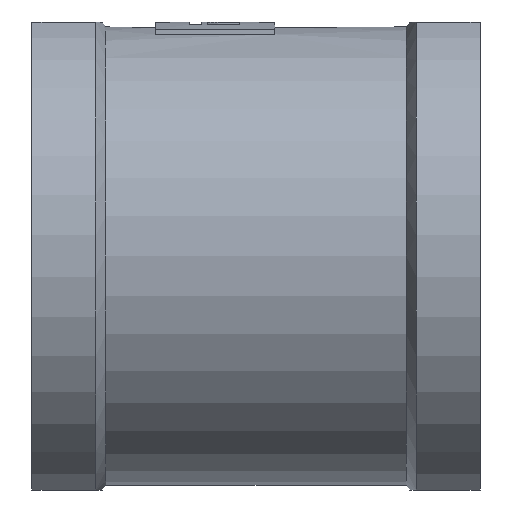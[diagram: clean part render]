
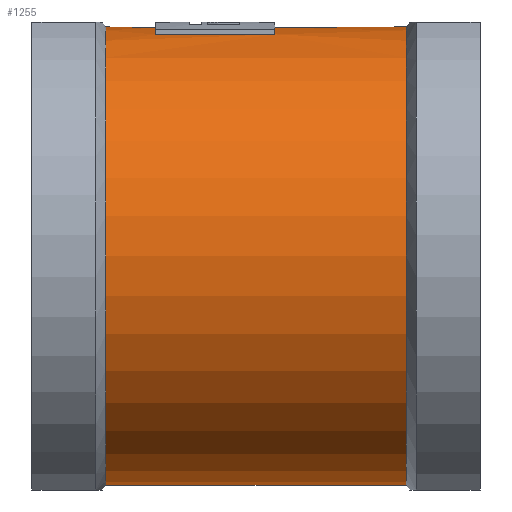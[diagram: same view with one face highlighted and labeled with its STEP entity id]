
A CAD part, front view. The second image highlights one B-rep face of the part: STEP entity #1255.
In plain terms, the highlighted cylindrical face has radius 23.25 mm (diameter 46.5 mm), a full revolution.
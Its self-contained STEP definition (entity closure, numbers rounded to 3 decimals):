
#61=FACE_BOUND('',#232,.T.);
#156=FACE_OUTER_BOUND('',#231,.T.);
#231=EDGE_LOOP('',(#916,#917,#918,#919,#920,#921));
#232=EDGE_LOOP('',(#922,#923,#924,#925));
#307=LINE('',#1925,#384);
#321=LINE('',#2002,#398);
#322=LINE('',#2009,#399);
#384=VECTOR('',#1508,10.);
#398=VECTOR('',#1554,10.);
#399=VECTOR('',#1561,23.25);
#454=CIRCLE('',#1352,23.25);
#459=CIRCLE('',#1365,23.25);
#460=CIRCLE('',#1368,23.25);
#461=CIRCLE('',#1369,23.25);
#462=CIRCLE('',#1370,23.25);
#463=CIRCLE('',#1371,23.25);
#517=VERTEX_POINT('',#1922);
#518=VERTEX_POINT('',#1924);
#519=VERTEX_POINT('',#1928);
#527=VERTEX_POINT('',#1998);
#528=VERTEX_POINT('',#2004);
#529=VERTEX_POINT('',#2005);
#530=VERTEX_POINT('',#2008);
#531=VERTEX_POINT('',#2010);
#655=EDGE_CURVE('',#518,#517,#307,.T.);
#658=EDGE_CURVE('',#517,#519,#454,.T.);
#675=EDGE_CURVE('',#527,#518,#459,.T.);
#677=EDGE_CURVE('',#519,#527,#321,.T.);
#678=EDGE_CURVE('',#528,#529,#460,.T.);
#679=EDGE_CURVE('',#529,#528,#461,.T.);
#680=EDGE_CURVE('',#529,#530,#322,.T.);
#681=EDGE_CURVE('',#530,#531,#462,.T.);
#682=EDGE_CURVE('',#531,#530,#463,.T.);
#916=ORIENTED_EDGE('',*,*,#678,.F.);
#917=ORIENTED_EDGE('',*,*,#679,.F.);
#918=ORIENTED_EDGE('',*,*,#680,.T.);
#919=ORIENTED_EDGE('',*,*,#681,.T.);
#920=ORIENTED_EDGE('',*,*,#682,.T.);
#921=ORIENTED_EDGE('',*,*,#680,.F.);
#922=ORIENTED_EDGE('',*,*,#655,.T.);
#923=ORIENTED_EDGE('',*,*,#658,.T.);
#924=ORIENTED_EDGE('',*,*,#677,.T.);
#925=ORIENTED_EDGE('',*,*,#675,.T.);
#1195=CYLINDRICAL_SURFACE('',#1367,23.25);
#1255=ADVANCED_FACE('',(#156,#61),#1195,.T.);
#1352=AXIS2_PLACEMENT_3D('',#1930,#1513,#1514);
#1365=AXIS2_PLACEMENT_3D('',#1999,#1549,#1550);
#1367=AXIS2_PLACEMENT_3D('',#2003,#1555,#1556);
#1368=AXIS2_PLACEMENT_3D('',#2006,#1557,#1558);
#1369=AXIS2_PLACEMENT_3D('',#2007,#1559,#1560);
#1370=AXIS2_PLACEMENT_3D('',#2011,#1562,#1563);
#1371=AXIS2_PLACEMENT_3D('',#2012,#1564,#1565);
#1508=DIRECTION('',(-1.,0.,0.));
#1513=DIRECTION('center_axis',(-1.,0.,0.));
#1514=DIRECTION('ref_axis',(0.,-1.,0.));
#1549=DIRECTION('center_axis',(1.,0.,0.));
#1550=DIRECTION('ref_axis',(0.,-1.,0.));
#1554=DIRECTION('',(1.,0.,0.));
#1555=DIRECTION('center_axis',(-1.,0.,0.));
#1556=DIRECTION('ref_axis',(0.,-1.,0.));
#1557=DIRECTION('center_axis',(-1.,0.,0.));
#1558=DIRECTION('ref_axis',(0.,0.,1.));
#1559=DIRECTION('center_axis',(-1.,0.,0.));
#1560=DIRECTION('ref_axis',(0.,0.,1.));
#1561=DIRECTION('',(1.,0.,0.));
#1562=DIRECTION('center_axis',(-1.,0.,0.));
#1563=DIRECTION('ref_axis',(0.,0.,1.));
#1564=DIRECTION('center_axis',(-1.,0.,0.));
#1565=DIRECTION('ref_axis',(0.,0.,1.));
#1922=CARTESIAN_POINT('',(-22.674,-5.888,22.492));
#1924=CARTESIAN_POINT('',(-10.576,-5.888,22.492));
#1925=CARTESIAN_POINT('',(-12.479,-5.888,22.492));
#1928=CARTESIAN_POINT('',(-22.674,6.112,22.432));
#1930=CARTESIAN_POINT('Origin',(-22.674,0.,
0.));
#1998=CARTESIAN_POINT('',(-10.576,6.112,22.432));
#1999=CARTESIAN_POINT('Origin',(-10.576,0.,
0.));
#2002=CARTESIAN_POINT('',(-12.479,6.112,22.432));
#2003=CARTESIAN_POINT('Origin',(-12.479,0.,
0.));
#2004=CARTESIAN_POINT('',(-27.729,-23.25,0.));
#2005=CARTESIAN_POINT('',(-27.729,23.25,0.));
#2006=CARTESIAN_POINT('Origin',(-27.729,0.,
0.));
#2007=CARTESIAN_POINT('Origin',(-27.729,0.,
0.));
#2008=CARTESIAN_POINT('',(2.771,23.25,0.));
#2009=CARTESIAN_POINT('',(-12.479,23.25,0.));
#2010=CARTESIAN_POINT('',(2.771,-23.25,0.));
#2011=CARTESIAN_POINT('Origin',(2.771,0.,
0.));
#2012=CARTESIAN_POINT('Origin',(2.771,0.,
0.));
